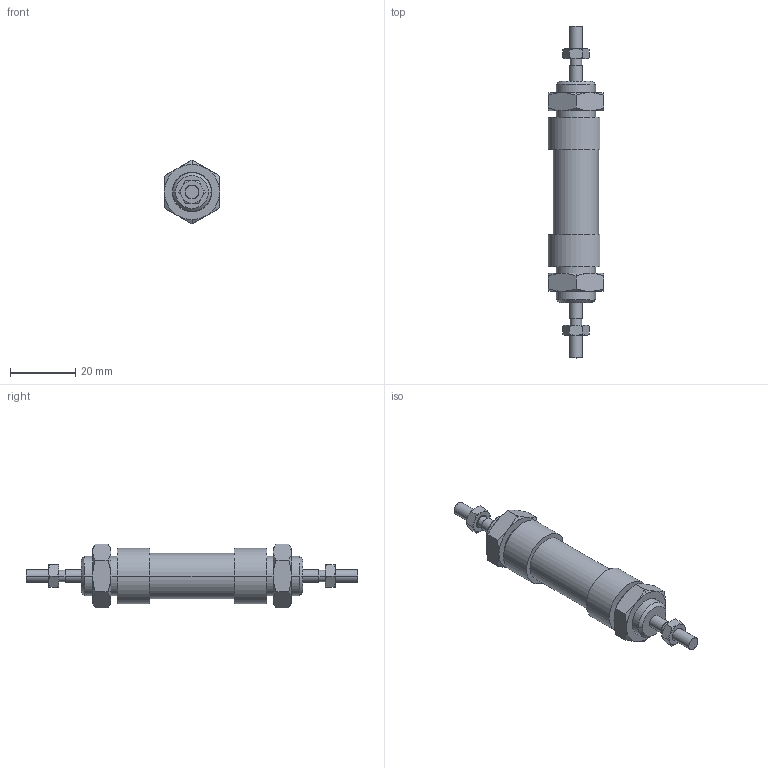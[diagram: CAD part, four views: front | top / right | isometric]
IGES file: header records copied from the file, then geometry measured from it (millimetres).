
Global section: file name: No Iges File Name specified; native system: AutoDesk Inventor R6.0; preprocessor: AutoDesk Inventor Iges Exporter R6.0; author: No Author specified; organization: No Organization specified; date: 20030403.071919; units: millimetre
Bounding box: 17 x 102 x 19.63 mm (x, y, z)
Volume: 13018.8 mm3; surface area: 7713.4 mm2
Topology: 6 solids, 6 shells, 170 faces, 356 edges, 208 vertices
Faces by surface type: cone 68, plane 46, bspline 30, cylinder 20, revolution 6
